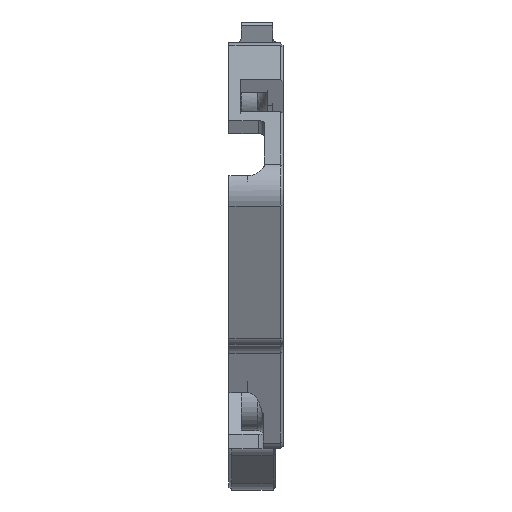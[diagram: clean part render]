
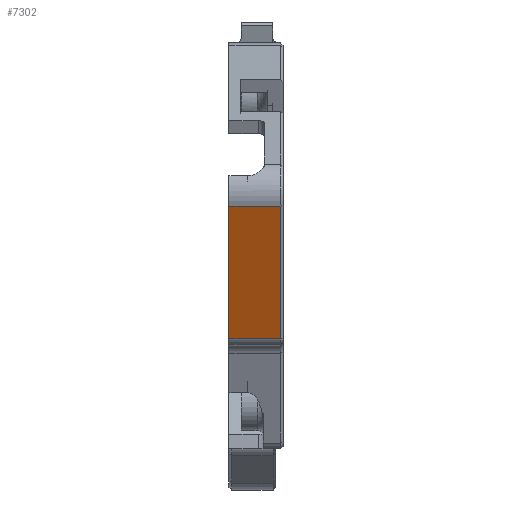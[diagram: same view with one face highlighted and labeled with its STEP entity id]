
A CAD part, left-side view. The second image highlights one B-rep face of the part: STEP entity #7302.
In plain terms, the highlighted planar face has unit normal (-0.895, 0, -0.446).
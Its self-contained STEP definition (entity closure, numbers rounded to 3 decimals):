
#31 = CARTESIAN_POINT ( 'NONE',  ( -64.196, 0.25, -8.946 ) ) ;
#246 = EDGE_CURVE ( 'NONE', #8415, #7903, #8835, .T. ) ;
#969 = EDGE_CURVE ( 'NONE', #2974, #9272, #6974, .T. ) ;
#1057 = CARTESIAN_POINT ( 'NONE',  ( -64.196, 5.2, -8.946 ) ) ;
#1117 = AXIS2_PLACEMENT_3D ( 'NONE', #11617, #1704, #3648 ) ;
#1177 = CARTESIAN_POINT ( 'NONE',  ( -71.909, 5.2, 6.512 ) ) ;
#1446 = LINE ( 'NONE', #1177, #4114 ) ;
#1704 = DIRECTION ( 'NONE',  ( 0.895, 0., 0.446 ) ) ;
#1798 = ORIENTED_EDGE ( 'NONE', *, *, #11428, .T. ) ;
#2974 = VERTEX_POINT ( 'NONE', #1057 ) ;
#3648 = DIRECTION ( 'NONE',  ( 0.446, 0., -0.895 ) ) ;
#4114 = VECTOR ( 'NONE', #5041, 1000. ) ;
#4206 = EDGE_LOOP ( 'NONE', ( #10795, #7059, #5505, #1798 ) ) ;
#4281 = LINE ( 'NONE', #7876, #7663 ) ;
#5041 = DIRECTION ( 'NONE',  ( 0.446, 0., -0.895 ) ) ;
#5135 = CARTESIAN_POINT ( 'NONE',  ( -64.196, 5.2, -8.946 ) ) ;
#5476 = FACE_OUTER_BOUND ( 'NONE', #4206, .T. ) ;
#5505 = ORIENTED_EDGE ( 'NONE', *, *, #246, .T. ) ;
#5570 = CARTESIAN_POINT ( 'NONE',  ( -70.569, 5.2, 3.826 ) ) ;
#6974 = LINE ( 'NONE', #5135, #9256 ) ;
#7059 = ORIENTED_EDGE ( 'NONE', *, *, #10388, .T. ) ;
#7151 = DIRECTION ( 'NONE',  ( 0., -1., 0. ) ) ;
#7302 = ADVANCED_FACE ( 'NONE', ( #5476 ), #10729, .F. ) ;
#7663 = VECTOR ( 'NONE', #11488, 1000. ) ;
#7876 = CARTESIAN_POINT ( 'NONE',  ( -54.976, 0.25, -27.428 ) ) ;
#7903 = VERTEX_POINT ( 'NONE', #5570 ) ;
#8000 = CARTESIAN_POINT ( 'NONE',  ( -70.569, 5.2, 3.826 ) ) ;
#8415 = VERTEX_POINT ( 'NONE', #10681 ) ;
#8835 = LINE ( 'NONE', #8000, #10208 ) ;
#9256 = VECTOR ( 'NONE', #7151, 1000. ) ;
#9272 = VERTEX_POINT ( 'NONE', #31 ) ;
#10208 = VECTOR ( 'NONE', #10775, 1000. ) ;
#10388 = EDGE_CURVE ( 'NONE', #9272, #8415, #4281, .T. ) ;
#10681 = CARTESIAN_POINT ( 'NONE',  ( -70.569, 0.25, 3.826 ) ) ;
#10729 = PLANE ( 'NONE',  #1117 ) ;
#10775 = DIRECTION ( 'NONE',  ( 0., 1., 0. ) ) ;
#10795 = ORIENTED_EDGE ( 'NONE', *, *, #969, .T. ) ;
#11428 = EDGE_CURVE ( 'NONE', #7903, #2974, #1446, .T. ) ;
#11488 = DIRECTION ( 'NONE',  ( -0.446, 0., 0.895 ) ) ;
#11617 = CARTESIAN_POINT ( 'NONE',  ( -54.976, 5.2, -27.428 ) ) ;
